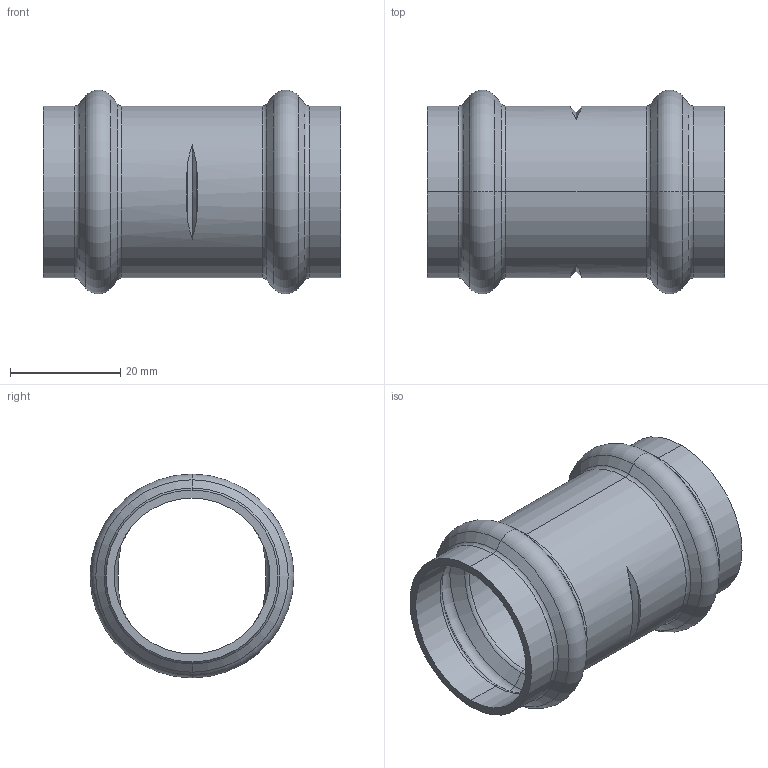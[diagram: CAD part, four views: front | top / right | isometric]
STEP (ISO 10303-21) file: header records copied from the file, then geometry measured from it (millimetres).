
FILE_DESCRIPTION (( 'STEP AP203' ), '1' );
FILE_NAME ('SP5270 28.STEP', '2017-04-24T09:18:45', ( '' ), ( '' ), 'SwSTEP 2.0', 'SolidWorks 2016', '' );
FILE_SCHEMA (( 'CONFIG_CONTROL_DESIGN' ));
Length unit declared in the file: millimetre
Products named in the file (1): SP5270 28
Bounding box: 54 x 37 x 37 mm (x, y, z)
Volume: 8104.1 mm3; surface area: 11685.6 mm2
Topology: 1 solids, 1 shells, 66 faces, 132 edges, 72 vertices
Faces by surface type: torus 28, cone 24, cylinder 12, plane 2
Entity records: 1958 total; most frequent: CARTESIAN_POINT 480, DIRECTION 338, ORIENTED_EDGE 264, AXIS2_PLACEMENT_3D 155, EDGE_CURVE 132, CIRCLE 88, EDGE_LOOP 72, VERTEX_POINT 72
